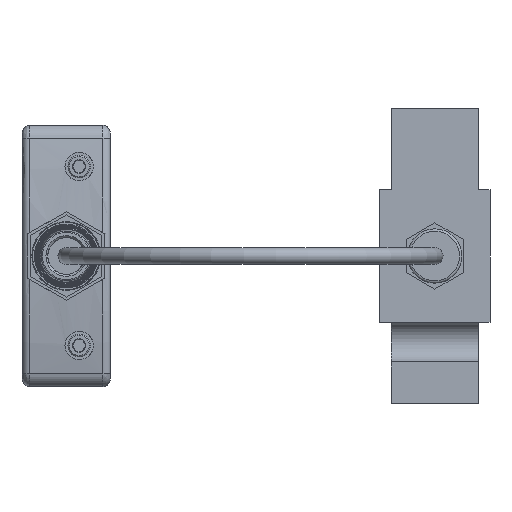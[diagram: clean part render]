
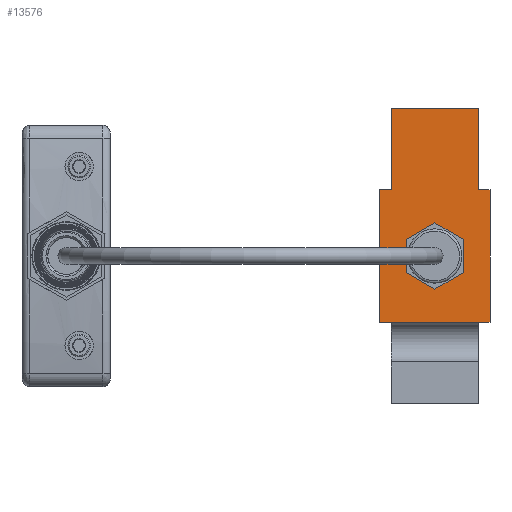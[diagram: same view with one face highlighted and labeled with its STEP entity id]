
A CAD part, left-side view. The second image highlights one B-rep face of the part: STEP entity #13576.
In plain terms, the highlighted planar face has unit normal (-1, 0, 0).
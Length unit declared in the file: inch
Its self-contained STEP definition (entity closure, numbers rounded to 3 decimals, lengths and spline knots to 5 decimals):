
#12928=CARTESIAN_POINT('',(40.69538,-17.0048,6.64909));
#12929=VERTEX_POINT('',#12928);
#12936=CARTESIAN_POINT('',(40.69538,-17.23855,6.78404));
#12937=VERTEX_POINT('',#12936);
#12938=CARTESIAN_POINT('',(40.69538,-17.23855,6.78404));
#12939=DIRECTION('',(0.0,0.866,-0.5));
#12940=VECTOR('',#12939,0.26991);
#12941=LINE('',#12938,#12940);
#12942=EDGE_CURVE('',#12937,#12929,#12941,.T.);
#12960=CARTESIAN_POINT('',(40.69538,-17.23855,7.05396));
#12961=VERTEX_POINT('',#12960);
#12962=CARTESIAN_POINT('',(40.69538,-17.23855,7.05396));
#12963=DIRECTION('',(0.0,0.0,-1.0));
#12964=VECTOR('',#12963,0.26991);
#12965=LINE('',#12962,#12964);
#12966=EDGE_CURVE('',#12961,#12937,#12965,.T.);
#12984=CARTESIAN_POINT('',(40.69538,-17.0048,7.18891));
#12985=VERTEX_POINT('',#12984);
#12986=CARTESIAN_POINT('',(40.69538,-17.0048,7.18891));
#12987=DIRECTION('',(0.0,-0.866,-0.5));
#12988=VECTOR('',#12987,0.26991);
#12989=LINE('',#12986,#12988);
#12990=EDGE_CURVE('',#12985,#12961,#12989,.T.);
#13008=CARTESIAN_POINT('',(40.69538,-16.77105,7.05396));
#13009=VERTEX_POINT('',#13008);
#13010=CARTESIAN_POINT('',(40.69538,-16.77105,7.05396));
#13011=DIRECTION('',(0.0,-0.866,0.5));
#13012=VECTOR('',#13011,0.26991);
#13013=LINE('',#13010,#13012);
#13014=EDGE_CURVE('',#13009,#12985,#13013,.T.);
#13032=CARTESIAN_POINT('',(40.69538,-16.77105,6.78404));
#13033=VERTEX_POINT('',#13032);
#13034=CARTESIAN_POINT('',(40.69538,-16.77105,6.78404));
#13035=DIRECTION('',(0.0,0.0,1.0));
#13036=VECTOR('',#13035,0.26991);
#13037=LINE('',#13034,#13036);
#13038=EDGE_CURVE('',#13033,#13009,#13037,.T.);
#13056=CARTESIAN_POINT('',(40.69538,-17.0048,6.64909));
#13057=DIRECTION('',(0.0,0.866,0.5));
#13058=VECTOR('',#13057,0.26991);
#13059=LINE('',#13056,#13058);
#13060=EDGE_CURVE('',#12929,#13033,#13059,.T.);
#13083=CARTESIAN_POINT('',(40.69538,-16.6498,7.4565));
#13084=VERTEX_POINT('',#13083);
#13093=CARTESIAN_POINT('',(40.69538,-16.6498,8.119));
#13094=VERTEX_POINT('',#13093);
#13095=CARTESIAN_POINT('',(40.69538,-16.6498,8.119));
#13096=DIRECTION('',(0.0,0.0,-1.0));
#13097=VECTOR('',#13096,0.6625);
#13098=LINE('',#13095,#13097);
#13099=EDGE_CURVE('',#13094,#13084,#13098,.T.);
#13199=CARTESIAN_POINT('',(40.69538,-17.3598,7.4565));
#13200=VERTEX_POINT('',#13199);
#13232=CARTESIAN_POINT('',(40.69538,-17.3598,8.119));
#13233=VERTEX_POINT('',#13232);
#13240=CARTESIAN_POINT('',(40.69538,-17.3598,8.119));
#13241=DIRECTION('',(0.0,0.0,-1.0));
#13242=VECTOR('',#13241,0.6625);
#13243=LINE('',#13240,#13242);
#13244=EDGE_CURVE('',#13233,#13200,#13243,.T.);
#13486=CARTESIAN_POINT('',(40.69538,-16.6498,8.119));
#13487=DIRECTION('',(0.0,-1.0,0.0));
#13488=VECTOR('',#13487,0.71);
#13489=LINE('',#13486,#13488);
#13490=EDGE_CURVE('',#13094,#13233,#13489,.T.);
#13520=CARTESIAN_POINT('',(40.69538,-17.0048,6.919));
#13521=DIRECTION('',(1.0,0.0,0.0));
#13522=DIRECTION('',(0.0,0.0,-1.0));
#13523=AXIS2_PLACEMENT_3D('',#13520,#13521,#13522);
#13524=PLANE('',#13523);
#13525=CARTESIAN_POINT('',(40.69538,-16.5548,7.4565));
#13526=VERTEX_POINT('',#13525);
#13527=CARTESIAN_POINT('',(40.69538,-16.5548,7.4565));
#13528=DIRECTION('',(0.0,-1.0,0.0));
#13529=VECTOR('',#13528,0.095);
#13530=LINE('',#13527,#13529);
#13531=EDGE_CURVE('',#13526,#13084,#13530,.T.);
#13532=ORIENTED_EDGE('',*,*,#13531,.F.);
#13533=CARTESIAN_POINT('',(40.69538,-16.5548,6.3815));
#13534=VERTEX_POINT('',#13533);
#13535=CARTESIAN_POINT('',(40.69538,-16.5548,7.4565));
#13536=DIRECTION('',(0.0,0.0,-1.0));
#13537=VECTOR('',#13536,1.075);
#13538=LINE('',#13535,#13537);
#13539=EDGE_CURVE('',#13526,#13534,#13538,.T.);
#13540=ORIENTED_EDGE('',*,*,#13539,.T.);
#13541=CARTESIAN_POINT('',(40.69538,-17.4548,6.3815));
#13542=VERTEX_POINT('',#13541);
#13543=CARTESIAN_POINT('',(40.69538,-17.4548,6.3815));
#13544=DIRECTION('',(0.0,1.0,0.0));
#13545=VECTOR('',#13544,0.9);
#13546=LINE('',#13543,#13545);
#13547=EDGE_CURVE('',#13542,#13534,#13546,.T.);
#13548=ORIENTED_EDGE('',*,*,#13547,.F.);
#13549=CARTESIAN_POINT('',(40.69538,-17.4548,7.4565));
#13550=VERTEX_POINT('',#13549);
#13551=CARTESIAN_POINT('',(40.69538,-17.4548,7.4565));
#13552=DIRECTION('',(0.0,0.0,-1.0));
#13553=VECTOR('',#13552,1.075);
#13554=LINE('',#13551,#13553);
#13555=EDGE_CURVE('',#13550,#13542,#13554,.T.);
#13556=ORIENTED_EDGE('',*,*,#13555,.F.);
#13557=CARTESIAN_POINT('',(40.69538,-17.3598,7.4565));
#13558=DIRECTION('',(0.0,-1.0,0.0));
#13559=VECTOR('',#13558,0.095);
#13560=LINE('',#13557,#13559);
#13561=EDGE_CURVE('',#13200,#13550,#13560,.T.);
#13562=ORIENTED_EDGE('',*,*,#13561,.F.);
#13563=ORIENTED_EDGE('',*,*,#13244,.F.);
#13564=ORIENTED_EDGE('',*,*,#13490,.F.);
#13565=ORIENTED_EDGE('',*,*,#13099,.T.);
#13566=EDGE_LOOP('',(#13532,#13540,#13548,#13556,#13562,#13563,#13564,#13565));
#13567=FACE_OUTER_BOUND('',#13566,.T.);
#13568=ORIENTED_EDGE('',*,*,#12942,.T.);
#13569=ORIENTED_EDGE('',*,*,#13060,.T.);
#13570=ORIENTED_EDGE('',*,*,#13038,.T.);
#13571=ORIENTED_EDGE('',*,*,#13014,.T.);
#13572=ORIENTED_EDGE('',*,*,#12990,.T.);
#13573=ORIENTED_EDGE('',*,*,#12966,.T.);
#13574=EDGE_LOOP('',(#13568,#13569,#13570,#13571,#13572,#13573));
#13575=FACE_BOUND('',#13574,.T.);
#13576=ADVANCED_FACE('',(#13567,#13575),#13524,.F.);
